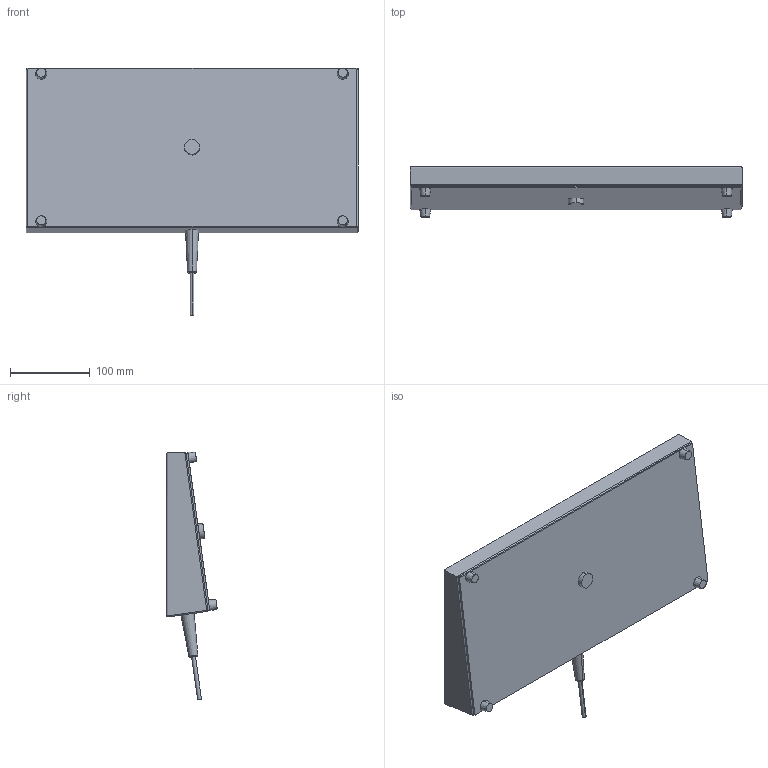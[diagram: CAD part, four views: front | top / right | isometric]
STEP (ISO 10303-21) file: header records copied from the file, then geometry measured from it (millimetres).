
FILE_DESCRIPTION (( 'STEP AP214' ), '1' );
FILE_NAME ('KB-xx-BCH Keyboard, Bench.STEP', '2017-07-10T20:31:23', ( '' ), ( '' ), 'SwSTEP 2.0', 'SolidWorks 2017', '' );
FILE_SCHEMA (( 'AUTOMOTIVE_DESIGN' ));
Length unit declared in the file: inch
Products named in the file (1): KB-xx-BCH Keyboard, Bench
Bounding box: 416.56 x 63.27 x 310.5 mm (x, y, z)
Volume: 3355264.6 mm3; surface area: 225635.3 mm2
Topology: 1 solids, 1 shells, 72 faces, 171 edges, 101 vertices
Faces by surface type: plane 32, cylinder 23, cone 10, sphere 5, torus 2
Entity records: 2215 total; most frequent: DIRECTION 379, CARTESIAN_POINT 355, ORIENTED_EDGE 330, EDGE_CURVE 165, AXIS2_PLACEMENT_3D 147, VERTEX_POINT 99, VECTOR 85, LINE 85
